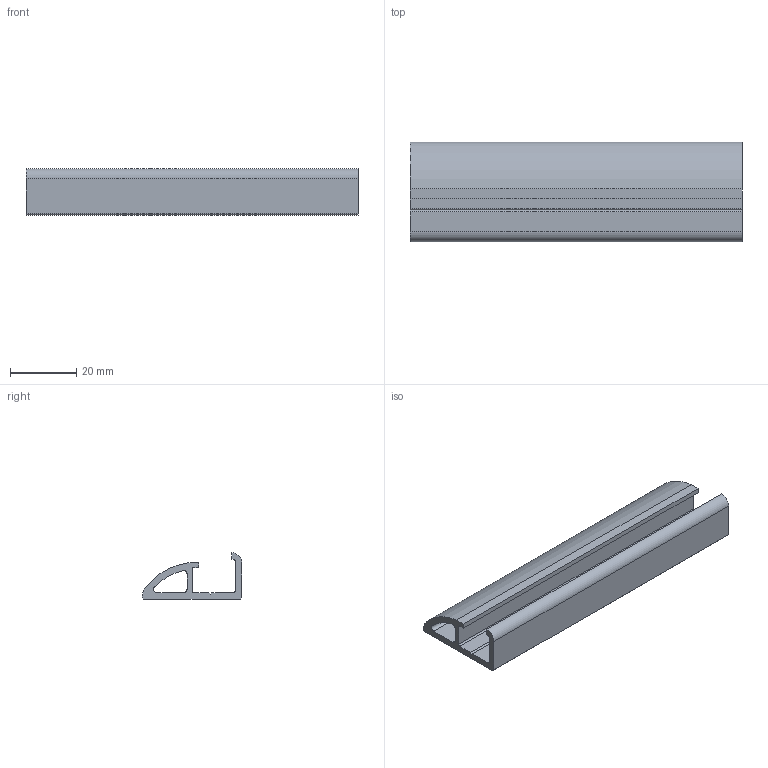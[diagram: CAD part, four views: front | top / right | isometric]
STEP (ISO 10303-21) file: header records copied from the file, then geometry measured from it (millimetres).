
FILE_DESCRIPTION (( 'STEP AP203' ), '1' );
FILE_NAME ('B30034A.STEP', '2017-03-22T12:32:06', ( 'Localadmin' ), ( 'Microsoft' ), 'SwSTEP 2.0', 'SolidWorks 2016', '' );
FILE_SCHEMA (( 'CONFIG_CONTROL_DESIGN' ));
Length unit declared in the file: millimetre
Products named in the file (1): B30034A
Bounding box: 100 x 30 x 14 mm (x, y, z)
Volume: 13194.9 mm3; surface area: 13493.3 mm2
Topology: 1 solids, 1 shells, 32 faces, 90 edges, 60 vertices
Faces by surface type: plane 20, cylinder 12
Entity records: 1119 total; most frequent: CARTESIAN_POINT 183, ORIENTED_EDGE 180, DIRECTION 180, EDGE_CURVE 90, LINE 66, VECTOR 66, VERTEX_POINT 60, AXIS2_PLACEMENT_3D 57
